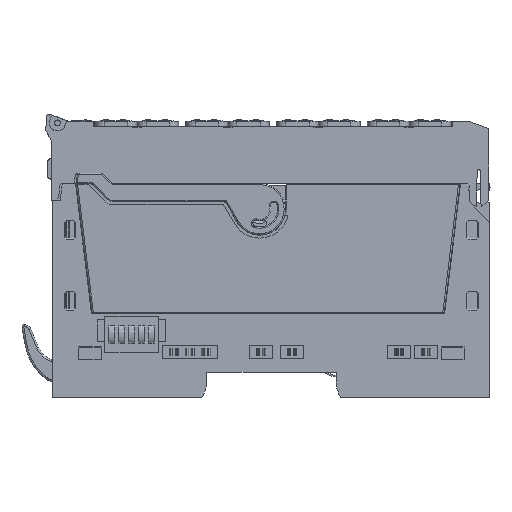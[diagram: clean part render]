
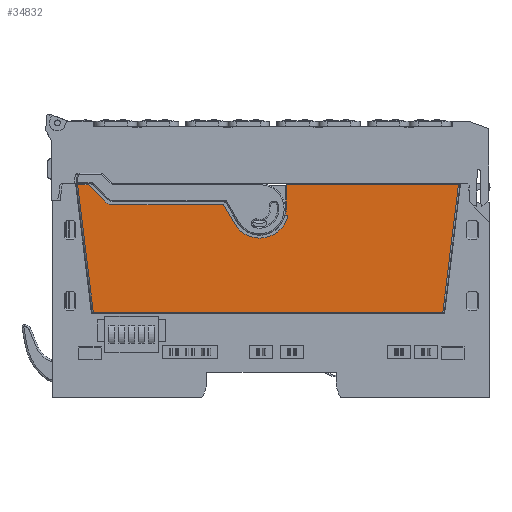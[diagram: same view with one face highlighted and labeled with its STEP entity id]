
A CAD part, top view. The second image highlights one B-rep face of the part: STEP entity #34832.
In plain terms, the highlighted planar face has unit normal (0, 0, 1).
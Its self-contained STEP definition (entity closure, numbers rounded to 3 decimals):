
#34709=AXIS2_PLACEMENT_3D('Plane Axis2P3D',#34706,#34707,#34708) ;
#34720=AXIS2_PLACEMENT_3D('Circle Axis2P3D',#34718,#34719,$) ;
#34734=AXIS2_PLACEMENT_3D('Circle Axis2P3D',#34732,#34733,$) ;
#34741=AXIS2_PLACEMENT_3D('Circle Axis2P3D',#34739,#34740,$) ;
#34755=AXIS2_PLACEMENT_3D('Circle Axis2P3D',#34753,#34754,$) ;
#34769=AXIS2_PLACEMENT_3D('Circle Axis2P3D',#34767,#34768,$) ;
#34596=CARTESIAN_POINT('Vertex',(4.312,51.2,11.5)) ;
#34667=CARTESIAN_POINT('Vertex',(4.05,50.938,11.5)) ;
#34670=CARTESIAN_POINT('Line Origine',(-13.088,33.8,11.5)) ;
#34706=CARTESIAN_POINT('Axis2P3D Location',(0.,0.,11.5)) ;
#34711=CARTESIAN_POINT('Line Origine',(4.05,47.719,11.5)) ;
#34715=CARTESIAN_POINT('Vertex',(4.05,44.5,11.5)) ;
#34718=CARTESIAN_POINT('Axis2P3D Location',(-3.2,44.5,11.5)) ;
#34722=CARTESIAN_POINT('Vertex',(3.866,42.878,11.5)) ;
#34725=CARTESIAN_POINT('Line Origine',(4.199,42.878,11.5)) ;
#34729=CARTESIAN_POINT('Vertex',(4.532,42.878,11.5)) ;
#34732=CARTESIAN_POINT('Axis2P3D Location',(-3.2,44.5,11.5)) ;
#34736=CARTESIAN_POINT('Vertex',(4.499,42.728,11.5)) ;
#34739=CARTESIAN_POINT('Axis2P3D Location',(-3.2,44.5,11.5)) ;
#34743=CARTESIAN_POINT('Vertex',(-10.042,40.55,11.5)) ;
#34746=CARTESIAN_POINT('Line Origine',(-11.499,43.075,11.5)) ;
#34750=CARTESIAN_POINT('Vertex',(-12.957,45.6,11.5)) ;
#34753=CARTESIAN_POINT('Axis2P3D Location',(-13.13,45.5,11.5)) ;
#34757=CARTESIAN_POINT('Vertex',(-13.13,45.7,11.5)) ;
#34760=CARTESIAN_POINT('Line Origine',(-28.08,45.7,11.5)) ;
#34764=CARTESIAN_POINT('Vertex',(-43.03,45.7,11.5)) ;
#34767=CARTESIAN_POINT('Axis2P3D Location',(-43.03,49.4,11.5)) ;
#34771=CARTESIAN_POINT('Vertex',(-45.646,46.784,11.5)) ;
#34774=CARTESIAN_POINT('Line Origine',(-47.855,48.992,11.5)) ;
#34778=CARTESIAN_POINT('Vertex',(-50.063,51.2,11.5)) ;
#34781=CARTESIAN_POINT('Line Origine',(-51.502,51.2,11.5)) ;
#34785=CARTESIAN_POINT('Vertex',(-52.94,51.2,11.5)) ;
#34788=CARTESIAN_POINT('Line Origine',(-50.803,33.8,11.5)) ;
#34792=CARTESIAN_POINT('Vertex',(-48.665,16.4,11.5)) ;
#34795=CARTESIAN_POINT('Line Origine',(-0.9,16.4,11.5)) ;
#34799=CARTESIAN_POINT('Vertex',(46.865,16.4,11.5)) ;
#34802=CARTESIAN_POINT('Line Origine',(49.003,33.8,11.5)) ;
#34806=CARTESIAN_POINT('Vertex',(51.14,51.2,11.5)) ;
#34809=CARTESIAN_POINT('Line Origine',(27.726,51.2,11.5)) ;
#34671=DIRECTION('Vector Direction',(-0.707,-0.707,0.)) ;
#34707=DIRECTION('Axis2P3D Direction',(0.,0.,1.)) ;
#34708=DIRECTION('Axis2P3D XDirection',(1.,0.,0.)) ;
#34712=DIRECTION('Vector Direction',(0.,-1.,0.)) ;
#34719=DIRECTION('Axis2P3D Direction',(0.,0.,1.)) ;
#34726=DIRECTION('Vector Direction',(1.,0.,0.)) ;
#34733=DIRECTION('Axis2P3D Direction',(0.,0.,1.)) ;
#34740=DIRECTION('Axis2P3D Direction',(0.,0.,1.)) ;
#34747=DIRECTION('Vector Direction',(0.5,-0.866,0.)) ;
#34754=DIRECTION('Axis2P3D Direction',(0.,0.,1.)) ;
#34761=DIRECTION('Vector Direction',(1.,0.,0.)) ;
#34768=DIRECTION('Axis2P3D Direction',(0.,0.,1.)) ;
#34775=DIRECTION('Vector Direction',(0.707,-0.707,0.)) ;
#34782=DIRECTION('Vector Direction',(1.,0.,0.)) ;
#34789=DIRECTION('Vector Direction',(0.122,-0.993,0.)) ;
#34796=DIRECTION('Vector Direction',(-1.,0.,0.)) ;
#34803=DIRECTION('Vector Direction',(-0.122,-0.993,0.)) ;
#34810=DIRECTION('Vector Direction',(1.,0.,0.)) ;
#34672=VECTOR('Line Direction',#34671,1.) ;
#34713=VECTOR('Line Direction',#34712,1.) ;
#34727=VECTOR('Line Direction',#34726,1.) ;
#34748=VECTOR('Line Direction',#34747,1.) ;
#34762=VECTOR('Line Direction',#34761,1.) ;
#34776=VECTOR('Line Direction',#34775,1.) ;
#34783=VECTOR('Line Direction',#34782,1.) ;
#34790=VECTOR('Line Direction',#34789,1.) ;
#34797=VECTOR('Line Direction',#34796,1.) ;
#34804=VECTOR('Line Direction',#34803,1.) ;
#34811=VECTOR('Line Direction',#34810,1.) ;
#34815=ORIENTED_EDGE('',*,*,#34717,.F.) ;
#34816=ORIENTED_EDGE('',*,*,#34724,.F.) ;
#34817=ORIENTED_EDGE('',*,*,#34731,.F.) ;
#34818=ORIENTED_EDGE('',*,*,#34738,.F.) ;
#34819=ORIENTED_EDGE('',*,*,#34745,.F.) ;
#34820=ORIENTED_EDGE('',*,*,#34752,.F.) ;
#34821=ORIENTED_EDGE('',*,*,#34759,.F.) ;
#34822=ORIENTED_EDGE('',*,*,#34766,.F.) ;
#34823=ORIENTED_EDGE('',*,*,#34773,.F.) ;
#34824=ORIENTED_EDGE('',*,*,#34780,.F.) ;
#34825=ORIENTED_EDGE('',*,*,#34787,.T.) ;
#34826=ORIENTED_EDGE('',*,*,#34794,.T.) ;
#34827=ORIENTED_EDGE('',*,*,#34801,.T.) ;
#34828=ORIENTED_EDGE('',*,*,#34808,.T.) ;
#34829=ORIENTED_EDGE('',*,*,#34813,.T.) ;
#34830=ORIENTED_EDGE('',*,*,#34674,.F.) ;
#34832=ADVANCED_FACE('SP_UR20_EM.1\\K\X2\00F6\X0\rper.7',(#34831),#34710,.T.) ;
#34721=CIRCLE('generated circle',#34720,7.25) ;
#34735=CIRCLE('generated circle',#34734,7.9) ;
#34742=CIRCLE('generated circle',#34741,7.9) ;
#34756=CIRCLE('generated circle',#34755,0.2) ;
#34770=CIRCLE('generated circle',#34769,3.7) ;
#34674=EDGE_CURVE('',#34668,#34597,#34673,.F.) ;
#34717=EDGE_CURVE('',#34716,#34668,#34714,.F.) ;
#34724=EDGE_CURVE('',#34723,#34716,#34721,.T.) ;
#34731=EDGE_CURVE('',#34730,#34723,#34728,.F.) ;
#34738=EDGE_CURVE('',#34737,#34730,#34735,.T.) ;
#34745=EDGE_CURVE('',#34744,#34737,#34742,.T.) ;
#34752=EDGE_CURVE('',#34751,#34744,#34749,.T.) ;
#34759=EDGE_CURVE('',#34758,#34751,#34756,.F.) ;
#34766=EDGE_CURVE('',#34765,#34758,#34763,.T.) ;
#34773=EDGE_CURVE('',#34772,#34765,#34770,.T.) ;
#34780=EDGE_CURVE('',#34779,#34772,#34777,.T.) ;
#34787=EDGE_CURVE('',#34779,#34786,#34784,.F.) ;
#34794=EDGE_CURVE('',#34786,#34793,#34791,.T.) ;
#34801=EDGE_CURVE('',#34793,#34800,#34798,.F.) ;
#34808=EDGE_CURVE('',#34800,#34807,#34805,.F.) ;
#34813=EDGE_CURVE('',#34807,#34597,#34812,.F.) ;
#34814=EDGE_LOOP('',(#34815,#34816,#34817,#34818,#34819,#34820,#34821,#34822,#34823,#34824,#34825,#34826,#34827,#34828,#34829,#34830)) ;
#34831=FACE_OUTER_BOUND('',#34814,.T.) ;
#34673=LINE('Line',#34670,#34672) ;
#34714=LINE('Line',#34711,#34713) ;
#34728=LINE('Line',#34725,#34727) ;
#34749=LINE('Line',#34746,#34748) ;
#34763=LINE('Line',#34760,#34762) ;
#34777=LINE('Line',#34774,#34776) ;
#34784=LINE('Line',#34781,#34783) ;
#34791=LINE('Line',#34788,#34790) ;
#34798=LINE('Line',#34795,#34797) ;
#34805=LINE('Line',#34802,#34804) ;
#34812=LINE('Line',#34809,#34811) ;
#34710=PLANE('',#34709) ;
#34597=VERTEX_POINT('',#34596) ;
#34668=VERTEX_POINT('',#34667) ;
#34716=VERTEX_POINT('',#34715) ;
#34723=VERTEX_POINT('',#34722) ;
#34730=VERTEX_POINT('',#34729) ;
#34737=VERTEX_POINT('',#34736) ;
#34744=VERTEX_POINT('',#34743) ;
#34751=VERTEX_POINT('',#34750) ;
#34758=VERTEX_POINT('',#34757) ;
#34765=VERTEX_POINT('',#34764) ;
#34772=VERTEX_POINT('',#34771) ;
#34779=VERTEX_POINT('',#34778) ;
#34786=VERTEX_POINT('',#34785) ;
#34793=VERTEX_POINT('',#34792) ;
#34800=VERTEX_POINT('',#34799) ;
#34807=VERTEX_POINT('',#34806) ;
